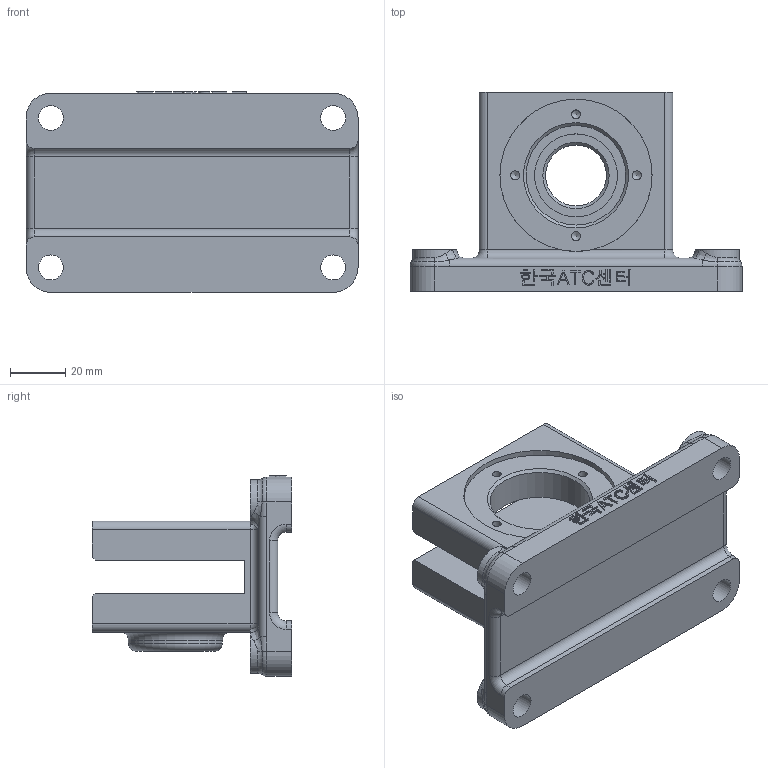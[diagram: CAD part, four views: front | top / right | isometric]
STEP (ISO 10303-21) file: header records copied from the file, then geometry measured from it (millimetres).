
FILE_DESCRIPTION(/* description */ (''),/* implementation_level */ '2;1');
FILE_NAME(/* name */ '',/* time_stamp */ '2025-06-27T16:32:53+09:00',/* author */ ('jhkim'),/* organization */ (''),/* preprocessor_version */ 'ST-DEVELOPER v20.1',/* originating_system */ 'Autodesk Inventor 2026',/* authorisation */ '');
FILE_SCHEMA (('AUTOMOTIVE_DESIGN { 1 0 10303 214 3 1 1 }'));
Length unit declared in the file: millimetre
Products named in the file (1): 본체
Bounding box: 120 x 72 x 72.5 mm (x, y, z)
Volume: 182838.7 mm3; surface area: 43968.8 mm2
Topology: 1 solids, 1 shells, 322 faces, 834 edges, 534 vertices
Faces by surface type: plane 145, bspline 92, cylinder 53, torus 22, cone 10
Full cylindrical faces by diameter (mm): 3.242 x8, 9 x4, 22 x1, 30 x1, 34 x1, 36 x1, 55 x1
Entity records: 10337 total; most frequent: CARTESIAN_POINT 2961, ORIENTED_EDGE 1652, DIRECTION 1252, EDGE_CURVE 826, VERTEX_POINT 534, LINE 490, VECTOR 490, AXIS2_PLACEMENT_3D 381
